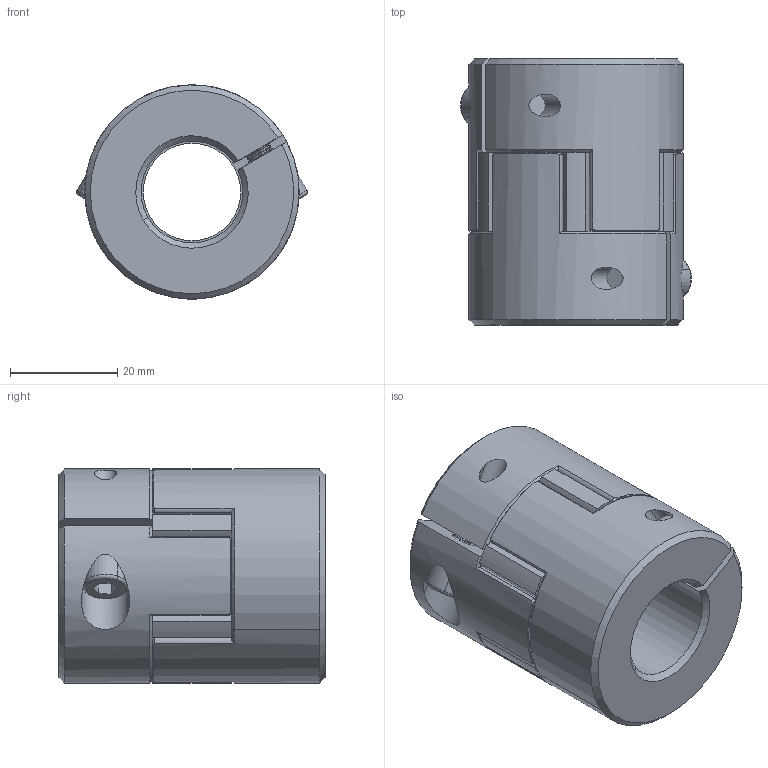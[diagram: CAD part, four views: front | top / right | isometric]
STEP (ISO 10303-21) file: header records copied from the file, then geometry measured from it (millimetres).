
FILE_DESCRIPTION (( 'STEP AP203' ), '1' );
FILE_NAME ('LF-B-D40L50-19-19.STEP', '2021-10-27T05:51:12', ( '' ), ( '' ), 'SwSTEP 2.0', 'SolidWorks 2018', '' );
FILE_SCHEMA (( 'CONFIG_CONTROL_DESIGN' ));
Length unit declared in the file: millimetre
Products named in the file (1): LF-B-D40L50-19-19
Bounding box: 43.11 x 49.7 x 40 mm (x, y, z)
Volume: 47124.4 mm3; surface area: 14595.2 mm2
Topology: 1 solids, 7 shells, 469 faces, 1109 edges, 658 vertices
Faces by surface type: cone 170, cylinder 169, plane 126, torus 4
Entity records: 13892 total; most frequent: CARTESIAN_POINT 2881, DIRECTION 2493, ORIENTED_EDGE 2210, EDGE_CURVE 1105, AXIS2_PLACEMENT_3D 1034, VERTEX_POINT 658, CIRCLE 564, EDGE_LOOP 487
